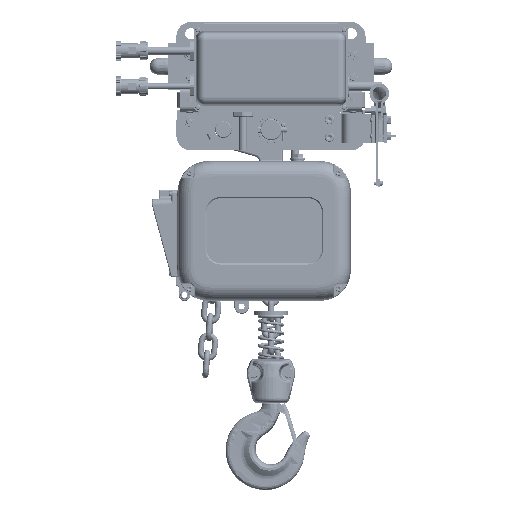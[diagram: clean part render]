
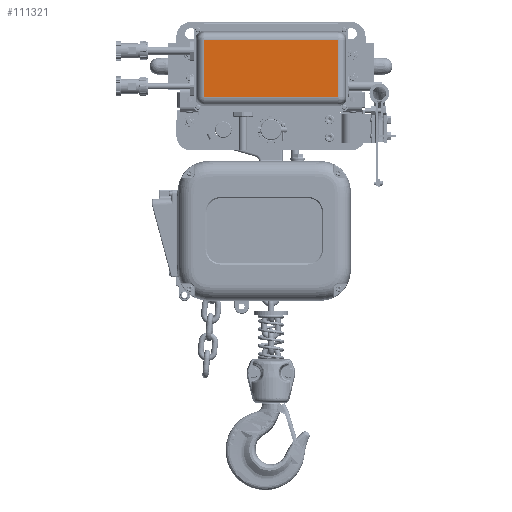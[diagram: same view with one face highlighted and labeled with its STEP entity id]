
A CAD part, top view. The second image highlights one B-rep face of the part: STEP entity #111321.
In plain terms, the highlighted planar face has unit normal (0, 0, 1) as drawn and (-1, 0, 0) by its records, which use the part's own axes.
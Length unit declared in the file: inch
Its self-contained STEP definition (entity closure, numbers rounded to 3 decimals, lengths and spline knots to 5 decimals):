
#330 = DIRECTION ( 'NONE',  ( 0., 0., 1. ) ) ;
#4065 = PLANE ( 'NONE',  #281189 ) ;
#29433 = CARTESIAN_POINT ( 'NONE',  ( -2.71654, 0.98144, 10.47244 ) ) ;
#62633 = FACE_OUTER_BOUND ( 'NONE', #340906, .T. ) ;
#66015 = VERTEX_POINT ( 'NONE', #291332 ) ;
#96731 = DIRECTION ( 'NONE',  ( 0., 0., -1. ) ) ;
#105579 = LINE ( 'NONE', #281334, #264030 ) ;
#111321 = ADVANCED_FACE ( 'NONE', ( #62633 ), #4065, .T. ) ;
#132418 = EDGE_CURVE ( 'NONE', #196523, #345514, #288390, .T. ) ;
#191517 = EDGE_CURVE ( 'NONE', #66015, #196523, #242928, .T. ) ;
#195158 = CARTESIAN_POINT ( 'NONE',  ( -2.71654, 0.98144, 9.75453 ) ) ;
#196523 = VERTEX_POINT ( 'NONE', #319073 ) ;
#211074 = ORIENTED_EDGE ( 'NONE', *, *, #248665, .T. ) ;
#218260 = CARTESIAN_POINT ( 'NONE',  ( -2.71654, -2.25031, 0.73446 ) ) ;
#222233 = VERTEX_POINT ( 'NONE', #356425 ) ;
#229017 = CARTESIAN_POINT ( 'NONE',  ( -2.71654, -2.25031, 10.47244 ) ) ;
#242928 = LINE ( 'NONE', #218260, #258737 ) ;
#244809 = DIRECTION ( 'NONE',  ( 0., -1., 0. ) ) ;
#248665 = EDGE_CURVE ( 'NONE', #222233, #66015, #105579, .T. ) ;
#251901 = VECTOR ( 'NONE', #279398, 39.37008 ) ;
#255538 = DIRECTION ( 'NONE',  ( -1., 0., 0. ) ) ;
#258737 = VECTOR ( 'NONE', #244809, 39.37008 ) ;
#263729 = DIRECTION ( 'NONE',  ( 0., 0., 1. ) ) ;
#264030 = VECTOR ( 'NONE', #96731, 39.37008 ) ;
#279398 = DIRECTION ( 'NONE',  ( 0., 1., 0. ) ) ;
#280178 = ORIENTED_EDGE ( 'NONE', *, *, #191517, .T. ) ;
#281189 = AXIS2_PLACEMENT_3D ( 'NONE', #229017, #255538, #330 ) ;
#281334 = CARTESIAN_POINT ( 'NONE',  ( -2.71654, 4.84533, 10.47244 ) ) ;
#288390 = LINE ( 'NONE', #29433, #340825 ) ;
#291332 = CARTESIAN_POINT ( 'NONE',  ( -2.71654, 4.84533, 0.73446 ) ) ;
#303206 = EDGE_CURVE ( 'NONE', #345514, #222233, #334332, .T. ) ;
#307785 = CARTESIAN_POINT ( 'NONE',  ( -2.71654, 5.33958, 9.75453 ) ) ;
#319073 = CARTESIAN_POINT ( 'NONE',  ( -2.71654, 0.98144, 0.73446 ) ) ;
#334332 = LINE ( 'NONE', #307785, #251901 ) ;
#340825 = VECTOR ( 'NONE', #263729, 39.37008 ) ;
#340906 = EDGE_LOOP ( 'NONE', ( #345248, #348900, #211074, #280178 ) ) ;
#345248 = ORIENTED_EDGE ( 'NONE', *, *, #132418, .T. ) ;
#345514 = VERTEX_POINT ( 'NONE', #195158 ) ;
#348900 = ORIENTED_EDGE ( 'NONE', *, *, #303206, .T. ) ;
#356425 = CARTESIAN_POINT ( 'NONE',  ( -2.71654, 4.84533, 9.75453 ) ) ;
